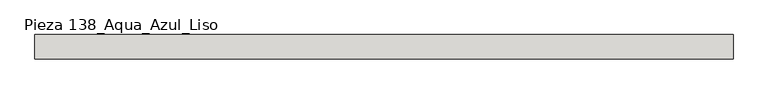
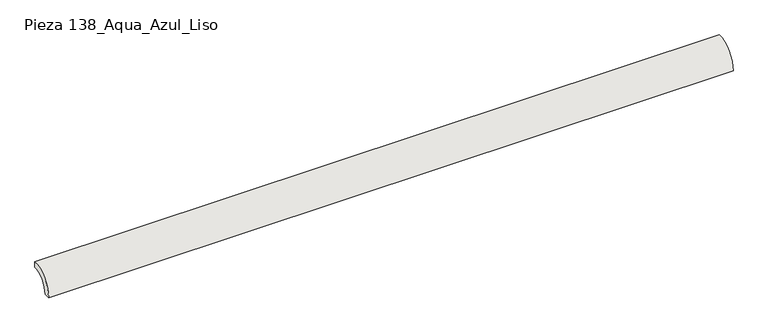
"""IFC4 building model written with IfcOpenShell, lengths in millimetres: slab geometry, ROSA GRES_138 : Pieza 138_Aqua_Azul_Liso."""

from ifc_helpers import new_model, si_unit, point, frame, frame_2d, origin, origin_2d, place, context, project, spatial, polyline, circle_curve, trimmed, segment, composite_curve, outline, extrude, source, transform, mapped, element, save


def pieza_138_aqua_azul_liso_a0d6bde1(model_context):
    return source(origin(), model_context, "Body", "SweptSolid", [
        extrude(outline(composite_curve([segment(polyline([(0.0, 40.0), (0.0, 30.0265886)]), True, "CONTINUOUS"), segment(trimmed(circle_curve(frame_2d((-0.0044453, 0.0044453)), 30.0221435), [point((0.0, 30.0265886))], [point((-30.0265886, 0.0))], True, "CARTESIAN"), True, "CONTINUOUS"), segment(polyline([(-30.0265886, 0.0), (-40.0, 0.0)]), True, "CONTINUOUS"), segment(trimmed(circle_curve(origin_2d(), 40.0), [point((-40.0, 0.0))], [point((0.0, 40.0))], False, "CARTESIAN"), True, "CONTINUOUS")], self_intersect=False)), frame((0.0, 0.0, 0.0), z_axis=(1.0, 0.0, 0.0), x_axis=(0.0, 1.0, 0.0)), (0.0, 0.0, 1.0), 1154.0808525),
    ])


if __name__ == "__main__":
    model = new_model("IFC4")
    model_context = context("Model", 3, world=origin())
    ifc_project = project(units=[si_unit("LENGTHUNIT", "METRE", prefix="MILLI")], contexts=[model_context])
    site = spatial("IfcSite", under=ifc_project)
    building = spatial("IfcBuilding", under=site)
    placement = place(None, origin())
    pieza_138_aqua_azul_liso_shape = pieza_138_aqua_azul_liso_a0d6bde1(model_context)
    element("IfcSlab", 1, ObjectType="ROSA GRES_138 : Pieza 138_Aqua_Azul_Liso", at=placement, inside=building, context=model_context, shape_type="MappedRepresentation", body=[
        mapped(pieza_138_aqua_azul_liso_shape, transform((0.0, 0.0, 0.0), x_axis=(1.0, 0.0, 0.0), y_axis=(0.0, 1.0, 0.0), z_axis=(0.0, 0.0, 1.0))),
    ])
    save(model, "model.ifc")
